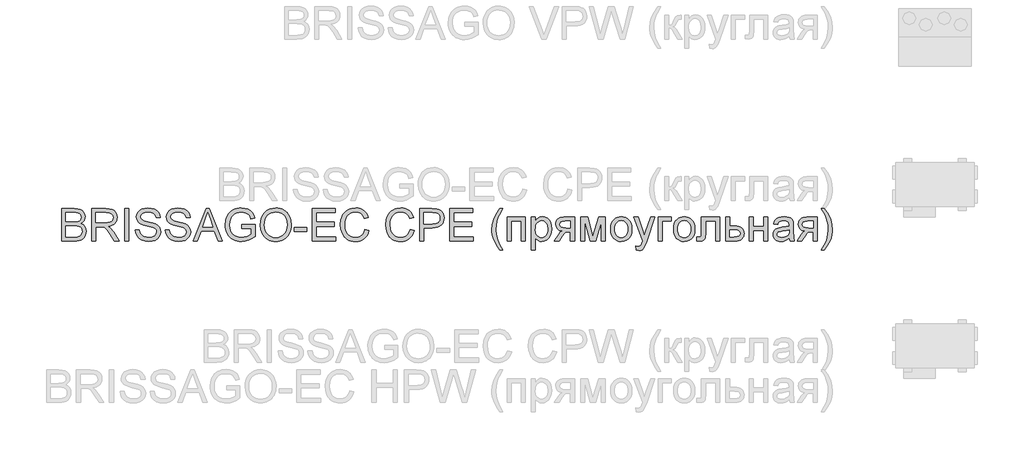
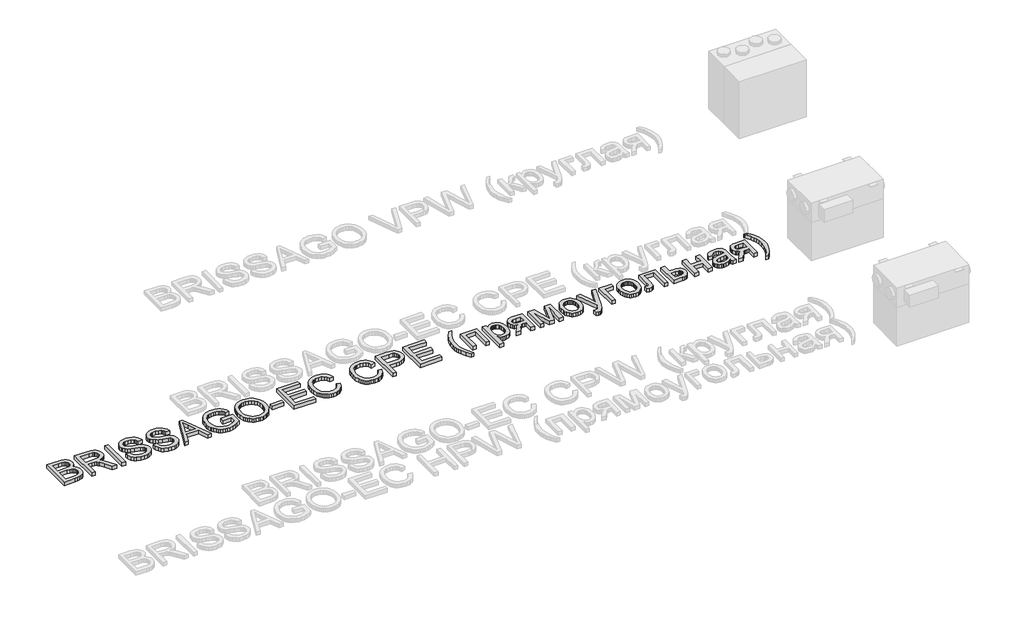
# One storey, part 11 of 28: 1 proxy.
"""IFC4 building model written with IfcOpenShell, lengths in millimetres."""

from ifc_helpers import new_model, si_unit, origin, origin_with_axes, place, context, project, spatial, polyline, outline, extrude, element, save

model = new_model("IFC4")

# Units and contexts
model_context = context("Model", 3, world=origin())
ifc_project = project(units=[si_unit("LENGTHUNIT", "METRE", prefix="MILLI")], contexts=[model_context])

# Site, building, storey
site = spatial("IfcSite", under=ifc_project)
building = spatial("IfcBuilding", under=site)
storey = spatial("IfcBuildingStorey", under=building, Name="Уровень 1", Elevation=0.0)

# Proxy
placement = place(None, origin())
element("IfcBuildingElementProxy", 1, Name="400 мм Arial", ObjectType="400 мм Arial", at=placement, inside=storey, context=model_context, shape_type="SweptSolid", body=[
    extrude(outline(polyline([(-31478.2290164, -2848.6932142), (-31478.2290164, -2446.8679737), (-31324.8958009, -2446.8679737), (-31282.7242615, -2449.8232923), (-31249.7988229, -2458.6892484), (-31224.562118, -2473.6865711), (-31205.4567798, -2495.0359896), (-31193.4270385, -2520.1500671), (-31189.4171248, -2546.441367), (-31192.7893764, -2570.6357396), (-31202.9061313, -2593.3831096), (-31219.8409658, -2613.2855255), (-31243.6674563, -2628.9450358), (-31215.2056526, -2643.8074684), (-31194.1750652, -2666.4199484), (-31181.1888308, -2695.2864223), (-31176.860086, -2728.9108366), (-31179.8154047, -2756.9311819), (-31188.6813608, -2782.9159135), (-31201.9128499, -2805.0133587), (-31217.9647676, -2821.3718447), (-31237.6219289, -2833.217645), (-31261.6691486, -2841.7770327), (-31290.8912418, -2846.9641689), (-31326.0730232, -2848.6932142), (-31478.2290164, -2848.6932142)]), holes=[polyline([(-31428.0008614, -2610.1094776), (-31336.2756172, -2610.1094776), (-31282.7119987, -2605.7929956), (-31263.9622797, -2598.3495165), (-31250.485536, -2587.2026921), (-31242.3553439, -2572.5242005), (-31239.6452798, -2554.48572), (-31242.1714029, -2536.974537), (-31249.749772, -2521.7196969), (-31262.0370306, -2509.812583), (-31278.6898223, -2502.3445785), (-31304.2453582, -2498.4082412), (-31343.2408497, -2497.0961287), (-31428.0008614, -2497.0961287), (-31428.0008614, -2610.1094776)]), polyline([(-31428.0008614, -2798.4650592), (-31324.9939027, -2798.4650592), (-31287.7151939, -2796.5030219), (-31256.1754442, -2785.5646639), (-31244.599424, -2776.1346221), (-31235.2797468, -2763.2464895), (-31229.1361175, -2747.4766146), (-31227.0882411, -2729.4013459), (-31229.4917368, -2708.4075468), (-31236.7022239, -2690.3568035), (-31249.2960508, -2676.2423976), (-31267.8495661, -2667.0576105), (-31294.1286033, -2662.0176272), (-31329.898996, -2660.3376327), (-31428.0008614, -2660.3376327), (-31428.0008614, -2798.4650592)])]), origin_with_axes(), (0.0, 0.0, 1.0), 50.0),
    extrude(outline(polyline([(-31107.7963728, -2848.6932142), (-31107.7963728, -2446.8679737), (-30934.6465804, -2446.8679737), (-30888.109508, -2449.5780377), (-30854.2521017, -2457.7082298), (-30829.5059061, -2472.7178152), (-30810.302466, -2496.0660591), (-30797.9784192, -2525.0183722), (-30793.8704035, -2556.8401647), (-30795.5718578, -2577.4783447), (-30800.6762205, -2596.4242674), (-30809.1834916, -2613.677933), (-30821.0936712, -2629.2393414), (-30836.5600434, -2642.6118519), (-30855.7358924, -2653.2988239), (-30878.6212182, -2661.3002573), (-30905.2160208, -2666.6161521), (-30876.6683779, -2688.1004606), (-30835.9561038, -2739.8001437), (-30768.9525297, -2848.6932142), (-30827.3231396, -2848.6932142), (-30879.6114339, -2765.4047305), (-30917.3806521, -2710.2714822), (-30931.4214815, -2694.195039), (-30943.9172066, -2684.2254369), (-30967.8050109, -2674.6605051), (-30996.9412649, -2672.8946715), (-31057.5682177, -2672.8946715), (-31057.5682177, -2848.6932142), (-31107.7963728, -2848.6932142)]), holes=[polyline([(-31057.5682177, -2622.6665164), (-30945.14348, -2622.6665164), (-30912.8557035, -2620.8884201), (-30887.8029396, -2615.5541312), (-30868.942856, -2606.3080304), (-30855.2331203, -2592.7944984), (-30846.8821991, -2576.4482751), (-30844.0985586, -2558.7041002), (-30849.4083221, -2534.2031593), (-30865.3376125, -2514.4601589), (-30877.4991781, -2506.8633957), (-30892.7448211, -2501.4371363), (-30932.4883393, -2497.0961287), (-31057.5682177, -2497.0961287), (-31057.5682177, -2622.6665164)])]), origin_with_axes(), (0.0, 0.0, 1.0), 50.0),
    extrude(outline(polyline([(-30699.6926128, -2848.6932142), (-30699.6926128, -2446.8679737), (-30649.4644577, -2446.8679737), (-30649.4644577, -2848.6932142), (-30699.6926128, -2848.6932142)])), origin_with_axes(), (0.0, 0.0, 1.0), 50.0),
    extrude(outline(polyline([(-30567.8437057, -2710.5657878), (-30517.6155506, -2710.5657878), (-30511.852066, -2738.4389803), (-30501.4287428, -2760.8429938), (-30485.1683587, -2778.6239569), (-30461.8936911, -2792.6279982), (-30433.4441501, -2801.7146835), (-30401.6591458, -2804.7435786), (-30373.6755887, -2802.4504475), (-30349.1746478, -2795.5710541), (-30329.3212828, -2784.6817471), (-30315.2804533, -2770.3588747), (-30306.929532, -2753.9145496), (-30304.1458916, -2736.660884), (-30306.2305562, -2719.8486768), (-30312.4845501, -2705.317338), (-30325.1887417, -2692.9197148), (-30346.6239993, -2682.5086543), (-30419.7589399, -2663.3297396), (-30467.7675403, -2650.6378108), (-30498.4856869, -2638.5590186), (-30523.4893998, -2621.6609723), (-30541.2090493, -2601.1822079), (-30551.7672625, -2577.5641838), (-30555.2866669, -2551.2483584), (-30550.9333967, -2521.8300615), (-30537.8735858, -2494.3983274), (-30516.450591, -2471.1481853), (-30487.0077686, -2454.2746645), (-30451.6665716, -2444.0107568), (-30412.5484528, -2440.5894543), (-30370.168447, -2444.1701724), (-30333.0859419, -2454.9123266), (-30302.6253127, -2472.5951878), (-30280.1109346, -2496.9980269), (-30265.8616386, -2526.6002647), (-30260.1962559, -2559.8813226), (-30310.424411, -2559.8813226), (-30319.6459863, -2529.9112027), (-30328.0091703, -2518.0531397), (-30338.8739519, -2508.2797414), (-30368.9176482, -2495.1831424), (-30410.5864155, -2490.8176093), (-30453.2362015, -2495.1340914), (-30469.5395052, -2500.529694), (-30482.4950828, -2508.0835376), (-30499.4176546, -2527.139825), (-30505.0585119, -2549.7768304), (-30501.0608609, -2569.0783724), (-30489.0679078, -2584.6029926), (-30460.7164687, -2598.4844066), (-30407.0547484, -2612.6601261), (-30351.6762453, -2626.1246072), (-30318.1744583, -2637.8723055), (-30289.5409764, -2656.094727), (-30269.564984, -2678.5845797), (-30257.8295484, -2705.0966088), (-30253.9177365, -2735.3855597), (-30258.4181596, -2766.348961), (-30271.9194288, -2795.4729523), (-30293.8697212, -2820.5379789), (-30323.7172137, -2839.3244861), (-30359.6102337, -2851.0599218), (-30399.6971084, -2854.9717336), (-30448.9074567, -2850.7533534), (-30489.4112643, -2838.0982128), (-30521.6745153, -2816.9572608), (-30546.1631935, -2787.2814465), (-30561.8840174, -2751.1309091), (-30567.8437057, -2710.5657878)])), origin_with_axes(), (0.0, 0.0, 1.0), 50.0),
    extrude(outline(polyline([(-30197.411062, -2710.5657878), (-30147.182907, -2710.5657878), (-30141.4194224, -2738.4389803), (-30130.9960992, -2760.8429938), (-30114.735715, -2778.6239569), (-30091.4610474, -2792.6279982), (-30063.0115065, -2801.7146835), (-30031.2265021, -2804.7435786), (-30003.242945, -2802.4504475), (-29978.7420041, -2795.5710541), (-29958.8886391, -2784.6817471), (-29944.8478096, -2770.3588747), (-29936.4968883, -2753.9145496), (-29933.7132479, -2736.660884), (-29935.7979125, -2719.8486768), (-29942.0519064, -2705.317338), (-29954.756098, -2692.9197148), (-29976.1913556, -2682.5086543), (-30049.3262962, -2663.3297396), (-30097.3348966, -2650.6378108), (-30128.0530432, -2638.5590186), (-30153.0567561, -2621.6609723), (-30170.7764056, -2601.1822079), (-30181.3346188, -2577.5641838), (-30184.8540233, -2551.2483584), (-30180.500753, -2521.8300615), (-30167.4409422, -2494.3983274), (-30146.0179473, -2471.1481853), (-30116.575125, -2454.2746645), (-30081.233928, -2444.0107568), (-30042.1158091, -2440.5894543), (-29999.7358033, -2444.1701724), (-29962.6532982, -2454.9123266), (-29932.192669, -2472.5951878), (-29909.6782909, -2496.9980269), (-29895.4289949, -2526.6002647), (-29889.7636122, -2559.8813226), (-29939.9917673, -2559.8813226), (-29949.2133426, -2529.9112027), (-29957.5765266, -2518.0531397), (-29968.4413082, -2508.2797414), (-29998.4850045, -2495.1831424), (-30040.1537718, -2490.8176093), (-30082.8035578, -2495.1340914), (-30099.1068616, -2500.529694), (-30112.0624392, -2508.0835376), (-30128.9850109, -2527.139825), (-30134.6258682, -2549.7768304), (-30130.6282172, -2569.0783724), (-30118.6352641, -2584.6029926), (-30090.283825, -2598.4844066), (-30036.6221047, -2612.6601261), (-29981.2436017, -2626.1246072), (-29947.7418146, -2637.8723055), (-29919.1083327, -2656.094727), (-29899.1323403, -2678.5845797), (-29887.3969047, -2705.0966088), (-29883.4850928, -2735.3855597), (-29887.9855159, -2766.348961), (-29901.4867851, -2795.4729523), (-29923.4370775, -2820.5379789), (-29953.28457, -2839.3244861), (-29989.17759, -2851.0599218), (-30029.2644648, -2854.9717336), (-30078.474813, -2850.7533534), (-30118.9786207, -2838.0982128), (-30151.2418716, -2816.9572608), (-30175.7305498, -2787.2814465), (-30191.4513737, -2751.1309091), (-30197.411062, -2710.5657878)])), origin_with_axes(), (0.0, 0.0, 1.0), 50.0),
    extrude(outline(polyline([(-29854.93745, -2848.6932142), (-29694.5409001, -2446.8679737), (-29651.7684868, -2446.8679737), (-29491.3719369, -2848.6932142), (-29544.4450461, -2848.6932142), (-29590.4548209, -2723.1228266), (-29755.9526678, -2723.1228266), (-29801.8643408, -2848.6932142), (-29854.93745, -2848.6932142)]), holes=[polyline([(-29737.5095171, -2672.8946715), (-29608.7998698, -2672.8946715), (-29644.9994581, -2574.106093), (-29673.1546934, -2497.0961287), (-29698.1706691, -2565.4731289), (-29737.5095171, -2672.8946715)])]), origin_with_axes(), (0.0, 0.0, 1.0), 50.0),
    extrude(outline(polyline([(-29249.354635, -2691.7302296), (-29249.354635, -2641.5020746), (-29086.113131, -2641.5020746), (-29086.113131, -2791.6960305), (-29125.7830728, -2819.2871801), (-29166.7038134, -2839.0792314), (-29208.7772509, -2850.9986081), (-29251.9052835, -2854.9717336), (-29280.756429, -2853.3929067), (-29308.2525424, -2848.656426), (-29334.3936239, -2840.7622916), (-29359.1796733, -2829.7105033), (-29381.8105474, -2815.6666081), (-29401.4861027, -2798.796153), (-29418.2063394, -2779.0991378), (-29431.9712574, -2756.5755627), (-29442.7226087, -2731.9458631), (-29450.4021454, -2705.9304747), (-29455.0098674, -2678.5293974), (-29456.5457747, -2649.7426313), (-29450.4266708, -2593.1501177), (-29442.777791, -2566.3345859), (-29432.0693593, -2540.5062042), (-29418.491448, -2516.7992753), (-29402.2341295, -2496.348102), (-29383.2974038, -2479.1526844), (-29361.6812709, -2465.2130225), (-29337.8547803, -2454.4402114), (-29312.2869816, -2446.7453463), (-29284.9778749, -2442.1284273), (-29255.92746, -2440.5894543), (-29214.5529983, -2444.1579096), (-29177.3478658, -2454.8632757), (-29146.0165826, -2471.9330003), (-29122.2636684, -2494.5945312), (-29104.6911718, -2523.9392516), (-29091.9011411, -2561.058545), (-29138.2052215, -2574.106093), (-29148.5427056, -2547.6308521), (-29161.1120071, -2527.6548598), (-29177.7402733, -2512.5962235), (-29200.2546514, -2500.8730505), (-29227.0977743, -2493.3314696), (-29256.7122749, -2490.8176093), (-29291.3790216, -2493.5276734), (-29321.0180477, -2501.6578655), (-29345.5189885, -2514.1903788), (-29364.7714796, -2530.1074064), (-29379.5480731, -2548.5873453), (-29390.6213211, -2568.8085923), (-29402.393545, -2606.7249633), (-29406.3176196, -2647.6824921), (-29401.5964673, -2695.7156179), (-29387.4330105, -2735.2384069), (-29364.2564448, -2765.9688163), (-29332.4959659, -2787.624803), (-29295.3276217, -2800.4638847), (-29255.92746, -2804.7435786), (-29221.138086, -2801.5184797), (-29187.2071033, -2791.8431833), (-29157.7397555, -2778.5135923), (-29136.3412861, -2764.32561), (-29136.3412861, -2691.7302296), (-29249.354635, -2691.7302296)])), origin_with_axes(), (0.0, 0.0, 1.0), 50.0),
    extrude(outline(polyline([(-29023.3279372, -2653.0780947), (-29019.980211, -2605.9462797), (-29009.9370325, -2564.2223301), (-28993.1984018, -2527.9062458), (-28969.7643187, -2496.9980269), (-28941.0388662, -2472.3192763), (-28908.4261273, -2454.6915974), (-28871.926102, -2444.1149901), (-28831.5387903, -2440.5894543), (-28804.5055951, -2442.2449232), (-28778.8335632, -2447.2113302), (-28754.5226947, -2455.4886751), (-28731.5729895, -2467.0769579), (-28710.6282413, -2481.6266908), (-28692.3322434, -2498.7883859), (-28676.6849958, -2518.5620431), (-28663.6864987, -2540.9476626), (-28653.4716419, -2565.4363407), (-28646.1753157, -2591.5191742), (-28640.3382547, -2648.467307), (-28641.874162, -2678.1247272), (-28646.481884, -2706.1757293), (-28654.1614207, -2732.6203134), (-28664.912772, -2757.4584794), (-28678.4814862, -2780.0341712), (-28694.6131117, -2799.6913325), (-28713.3076485, -2816.4299633), (-28734.5650964, -2830.2500636), (-28757.5485241, -2841.0657942), (-28781.4209999, -2848.7913161), (-28806.1825238, -2853.4266293), (-28831.8330959, -2854.9717336), (-28859.3384064, -2853.264148), (-28885.3476635, -2848.1413913), (-28909.8608671, -2839.6034633), (-28932.8780173, -2827.6503641), (-28953.7982401, -2812.745012), (-28972.0206616, -2795.3503249), (-28987.5452818, -2775.4663031), (-29000.3721007, -2753.0929464), (-29017.588978, -2704.4712094), (-29023.3279372, -2653.0780947)]), holes=[polyline([(-28973.0997821, -2653.568604), (-28970.5889875, -2686.8680559), (-28963.0566036, -2716.4273742), (-28950.5026305, -2742.2465589), (-28932.9270682, -2764.32561), (-28911.5623213, -2782.0084713), (-28887.6407946, -2794.6390864), (-28861.162488, -2802.2174555), (-28832.1274015, -2804.7435786), (-28802.5956744, -2802.1929301), (-28775.8046681, -2794.5409846), (-28751.7543826, -2781.7877421), (-28730.4448181, -2763.9332026), (-28712.9980144, -2741.3881676), (-28700.5360119, -2714.5634388), (-28693.0588103, -2683.4590161), (-28690.5664098, -2648.0748995), (-28694.8338409, -2603.6102291), (-28707.6361344, -2565.1788233), (-28728.6421963, -2533.7494382), (-28757.5209329, -2510.2908296), (-28792.3593579, -2495.6859144), (-28831.2444847, -2490.8176093), (-28859.2709614, -2493.1628571), (-28885.2740871, -2500.1986002), (-28909.2538618, -2511.9248388), (-28931.2102856, -2528.3415728), (-28949.5369403, -2550.2397486), (-28962.627408, -2578.4103124), (-28970.4816886, -2612.8532642), (-28973.0997821, -2653.568604)])]), origin_with_axes(), (0.0, 0.0, 1.0), 50.0),
    extrude(outline(polyline([(-28602.6671384, -2729.4013459), (-28602.6671384, -2679.1731909), (-28445.7041538, -2679.1731909), (-28445.7041538, -2729.4013459), (-28602.6671384, -2729.4013459)])), origin_with_axes(), (0.0, 0.0, 1.0), 50.0),
    extrude(outline(polyline([(-28382.91896, -2848.6932142), (-28382.91896, -2446.8679737), (-28094.1070683, -2446.8679737), (-28094.1070683, -2497.0961287), (-28332.6908049, -2497.0961287), (-28332.6908049, -2616.387997), (-28106.664107, -2616.387997), (-28106.664107, -2666.6161521), (-28332.6908049, -2666.6161521), (-28332.6908049, -2798.4650592), (-28087.8285489, -2798.4650592), (-28087.8285489, -2848.6932142), (-28382.91896, -2848.6932142)])), origin_with_axes(), (0.0, 0.0, 1.0), 50.0),
    extrude(outline(polyline([(-27729.952944, -2705.8568983), (-27679.7247889, -2718.8063445), (-27689.6637341, -2750.0425916), (-27702.9013546, -2777.3363699), (-27719.4376503, -2800.6876796), (-27739.2726212, -2820.0965205), (-27761.9586776, -2835.3544262), (-27787.0482296, -2846.2529303), (-27814.5412774, -2852.7920328), (-27844.4378209, -2854.9717336), (-27875.0670627, -2853.322396), (-27902.6980662, -2848.3743832), (-27927.3308314, -2840.1276951), (-27948.9653584, -2828.5823318), (-27967.8990185, -2813.9099716), (-27984.4291828, -2796.2822927), (-27998.5558514, -2775.699295), (-28010.2790243, -2752.1609787), (-28026.0611619, -2700.2896174), (-28031.3218744, -2644.7394361), (-28025.3744488, -2586.148097), (-28017.9401669, -2559.8506657), (-28007.5321721, -2535.55206), (-27994.3834564, -2513.6538842), (-27978.7270119, -2494.557743), (-27960.5628383, -2478.2636363), (-27939.8909359, -2464.7715641), (-27917.413346, -2454.191891), (-27893.8321101, -2446.6349817), (-27843.3587004, -2440.5894543), (-27814.6301822, -2442.5453602), (-27788.2867657, -2448.413078), (-27764.3284508, -2458.1926077), (-27742.7552374, -2471.8839493), (-27723.9227449, -2489.1253522), (-27708.1865926, -2509.5550656), (-27695.5467804, -2533.1730897), (-27686.0033083, -2559.9794244), (-27736.2314634, -2571.947852), (-27753.6445445, -2535.319068), (-27777.4342468, -2510.1927278), (-27807.894876, -2495.6613889), (-27845.3207377, -2490.8176093), (-27888.461033, -2496.1886865), (-27907.143307, -2502.9025329), (-27923.9003318, -2512.3019179), (-27950.7925057, -2537.4650463), (-27968.2914259, -2569.9858147), (-27977.893146, -2606.7494888), (-27981.0937194, -2644.6413343), (-27977.3045348, -2691.0435166), (-27965.9369812, -2731.1671795), (-27946.5618627, -2763.4794814), (-27918.7499839, -2786.4475807), (-27885.4076124, -2800.1695791), (-27849.441016, -2804.7435786), (-27827.6041539, -2803.1862114), (-27807.5147313, -2798.5141101), (-27789.1727482, -2790.7272745), (-27772.5782045, -2779.8257048), (-27758.1235078, -2765.8584517), (-27746.2010654, -2748.8745662), (-27736.8108775, -2728.8740484), (-27729.952944, -2705.8568983)])), origin_with_axes(), (0.0, 0.0, 1.0), 50.0),
    extrude(outline(polyline([(-27171.1647188, -2705.8568983), (-27120.9365637, -2718.8063445), (-27130.8755089, -2750.0425916), (-27144.1131294, -2777.3363699), (-27160.6494251, -2800.6876796), (-27180.484396, -2820.0965205), (-27203.1704524, -2835.3544262), (-27228.2600044, -2846.2529303), (-27255.7530522, -2852.7920328), (-27285.6495957, -2854.9717336), (-27316.2788375, -2853.322396), (-27343.909841, -2848.3743832), (-27368.5426062, -2840.1276951), (-27390.1771332, -2828.5823318), (-27409.1107933, -2813.9099716), (-27425.6409576, -2796.2822927), (-27439.7676262, -2775.699295), (-27451.4907991, -2752.1609787), (-27467.2729367, -2700.2896174), (-27472.5336492, -2644.7394361), (-27466.5862236, -2586.148097), (-27459.1519417, -2559.8506657), (-27448.7439469, -2535.55206), (-27435.5952312, -2513.6538842), (-27419.9387866, -2494.557743), (-27401.7746131, -2478.2636363), (-27381.1027107, -2464.7715641), (-27358.6251208, -2454.191891), (-27335.0438849, -2446.6349817), (-27284.5704752, -2440.5894543), (-27255.841957, -2442.5453602), (-27229.4985405, -2448.413078), (-27205.5402255, -2458.1926077), (-27183.9670122, -2471.8839493), (-27165.1345197, -2489.1253522), (-27149.3983674, -2509.5550656), (-27136.7585552, -2533.1730897), (-27127.2150831, -2559.9794244), (-27177.4432382, -2571.947852), (-27194.8563193, -2535.319068), (-27218.6460216, -2510.1927278), (-27249.1066508, -2495.6613889), (-27286.5325125, -2490.8176093), (-27329.6728078, -2496.1886865), (-27348.3550818, -2502.9025329), (-27365.1121066, -2512.3019179), (-27392.0042805, -2537.4650463), (-27409.5032007, -2569.9858147), (-27419.1049208, -2606.7494888), (-27422.3054942, -2644.6413343), (-27418.5163096, -2691.0435166), (-27407.148756, -2731.1671795), (-27387.7736375, -2763.4794814), (-27359.9617587, -2786.4475807), (-27326.6193872, -2800.1695791), (-27290.6527908, -2804.7435786), (-27268.8159287, -2803.1862114), (-27248.7265061, -2798.5141101), (-27230.384523, -2790.7272745), (-27213.7899793, -2779.8257048), (-27199.3352826, -2765.8584517), (-27187.4128402, -2748.8745662), (-27178.0226523, -2728.8740484), (-27171.1647188, -2705.8568983)])), origin_with_axes(), (0.0, 0.0, 1.0), 50.0),
    extrude(outline(polyline([(-27051.8728505, -2848.6932142), (-27051.8728505, -2446.8679737), (-26902.9542188, -2446.8679737), (-26842.9158772, -2450.6939464), (-26816.1463307, -2457.8431198), (-26794.1101992, -2469.4804536), (-26776.3660243, -2486.1332453), (-26762.4723476, -2508.3287923), (-26753.4960269, -2534.5097276), (-26750.50392, -2563.1186841), (-26752.5242053, -2587.7851719), (-26758.5850612, -2610.4773596), (-26768.6864876, -2631.1952473), (-26782.8284847, -2649.938835), (-26802.243457, -2665.4757179), (-26828.1638092, -2676.5734914), (-26860.5895414, -2683.2321556), (-26899.5206535, -2685.4517103), (-27001.6446954, -2685.4517103), (-27001.6446954, -2848.6932142), (-27051.8728505, -2848.6932142)]), holes=[polyline([(-27001.6446954, -2635.2235552), (-26896.5775976, -2635.2235552), (-26852.0393507, -2630.6127675), (-26835.43561, -2624.8492829), (-26822.6087911, -2616.7804045), (-26813.0377278, -2606.6207301), (-26806.2012541, -2594.5848574), (-26800.7320751, -2564.8845177), (-26803.9571739, -2542.3210887), (-26813.6324704, -2523.2893268), (-26828.5562167, -2508.9664544), (-26847.5266649, -2500.529694), (-26897.75482, -2497.0961287), (-27001.6446954, -2497.0961287), (-27001.6446954, -2635.2235552)])]), origin_with_axes(), (0.0, 0.0, 1.0), 50.0),
    extrude(outline(polyline([(-26681.4402068, -2848.6932142), (-26681.4402068, -2446.8679737), (-26392.6283151, -2446.8679737), (-26392.6283151, -2497.0961287), (-26631.2120517, -2497.0961287), (-26631.2120517, -2616.387997), (-26405.1853539, -2616.387997), (-26405.1853539, -2666.6161521), (-26631.2120517, -2666.6161521), (-26631.2120517, -2798.4650592), (-26386.3497957, -2798.4650592), (-26386.3497957, -2848.6932142), (-26681.4402068, -2848.6932142)])), origin_with_axes(), (0.0, 0.0, 1.0), 50.0),
    extrude(outline(polyline([(-26059.8667877, -2961.7065632), (-26098.7887028, -2907.0883496), (-26131.1868439, -2843.8862228), (-26143.933955, -2809.8326128), (-26153.0390344, -2775.1658661), (-26158.502082, -2739.8859828), (-26160.3230979, -2703.9929628), (-26154.8784444, -2641.575651), (-26138.5444838, -2581.8561404), (-26106.1218173, -2514.2149042), (-26059.8667877, -2446.8679737), (-26022.1956714, -2446.8679737), (-26069.186465, -2526.4285865), (-26085.2261199, -2564.1978046), (-26097.4398022, -2603.5366527), (-26106.9311577, -2653.7893332), (-26110.0949428, -2704.2872684), (-26104.6012384, -2768.6788803), (-26088.120125, -2833.0459667), (-26060.6516027, -2897.3885277), (-26022.1956714, -2961.7065632), (-26059.8667877, -2961.7065632)])), origin_with_axes(), (0.0, 0.0, 1.0), 50.0),
    extrude(outline(polyline([(-25971.9675164, -2553.6028032), (-25745.9408185, -2553.6028032), (-25745.9408185, -2848.6932142), (-25796.1689736, -2848.6932142), (-25796.1689736, -2603.8309583), (-25921.7393613, -2603.8309583), (-25921.7393613, -2848.6932142), (-25971.9675164, -2848.6932142), (-25971.9675164, -2553.6028032)])), origin_with_axes(), (0.0, 0.0, 1.0), 50.0),
    extrude(outline(polyline([(-25670.5985859, -2961.7065632), (-25670.5985859, -2553.6028032), (-25620.3704308, -2553.6028032), (-25620.3704308, -2602.8499396), (-25603.9874193, -2578.5574652), (-25585.6423705, -2561.2056978), (-25564.2561638, -2550.7946373), (-25538.7496788, -2547.3242838), (-25504.781908, -2552.1803261), (-25475.0815682, -2566.7484531), (-25450.8994584, -2590.145748), (-25433.4863773, -2621.489294), (-25422.9649522, -2658.4982227), (-25419.4578105, -2698.8916658), (-25423.4186734, -2741.8480201), (-25435.3012618, -2780.2671631), (-25454.7254311, -2812.1993203), (-25481.3110367, -2835.6947171), (-25512.2744379, -2850.1524795), (-25544.8319945, -2854.9717336), (-25567.9227211, -2851.7466348), (-25588.5363755, -2842.0713383), (-25606.1824486, -2827.4664231), (-25620.3704308, -2809.4524681), (-25620.3704308, -2961.7065632), (-25670.5985859, -2961.7065632)]), holes=[polyline([(-25620.3704308, -2703.5024535), (-25614.93804, -2748.5312097), (-25608.1475516, -2765.9688163), (-25598.6408677, -2780.0219085), (-25574.5936479, -2798.563161), (-25560.8317956, -2803.1984742), (-25545.911115, -2804.7435786), (-25530.7758366, -2803.1432919), (-25516.7625983, -2798.3424318), (-25503.8714, -2790.3409984), (-25492.1022419, -2779.1389917), (-25482.295121, -2764.5769961), (-25475.2900347, -2746.495596), (-25471.0869829, -2724.8947915), (-25469.6859656, -2699.7745826), (-25475.1551446, -2654.9910811), (-25481.9916184, -2637.4185844), (-25491.5626816, -2623.0589239), (-25515.5731132, -2603.9290601), (-25529.1786156, -2599.1465942), (-25543.8509758, -2597.5524389), (-25558.4773508, -2599.2477617), (-25572.2392031, -2604.3337303), (-25597.1693397, -2624.6776047), (-25607.3198171, -2639.7760949), (-25614.5701581, -2657.9463997), (-25618.9203626, -2679.1885193), (-25620.3704308, -2703.5024535)])]), origin_with_axes(), (0.0, 0.0, 1.0), 50.0),
    extrude(outline(polyline([(-25136.9244382, -2553.6028032), (-25136.9244382, -2848.6932142), (-25187.1525933, -2848.6932142), (-25187.1525933, -2735.6798653), (-25214.5230138, -2735.6798653), (-25236.3506788, -2737.2740206), (-25251.8017226, -2742.0564866), (-25266.6886807, -2755.962426), (-25286.8240885, -2784.9270018), (-25326.8496496, -2848.6932142), (-25384.9259539, -2848.6932142), (-25334.5015951, -2768.0534809), (-25312.2324717, -2739.1134306), (-25291.7291818, -2726.2620863), (-25326.0648347, -2715.7406612), (-25339.4066884, -2706.9298874), (-25350.1978936, -2695.7524061), (-25364.471715, -2669.1668006), (-25369.2296555, -2638.8533242), (-25367.6048433, -2620.7657928), (-25362.7304069, -2604.4686204), (-25354.6063462, -2589.961807), (-25343.2326611, -2577.2453527), (-25328.7810301, -2566.9017373), (-25311.4231313, -2559.5134406), (-25291.1589647, -2555.0804625), (-25267.9885304, -2553.6028032), (-25136.9244382, -2553.6028032)]), holes=[polyline([(-25187.1525933, -2603.8309583), (-25253.3713525, -2603.8309583), (-25287.5721153, -2606.737226), (-25306.9840219, -2615.4560293), (-25315.9971308, -2628.0743817), (-25319.0015004, -2642.6792969), (-25314.5746537, -2661.8214234), (-25301.2941137, -2675.1019635), (-25276.7563846, -2682.8642736), (-25238.5579708, -2685.4517103), (-25187.1525933, -2685.4517103), (-25187.1525933, -2603.8309583)])]), origin_with_axes(), (0.0, 0.0, 1.0), 50.0),
    extrude(outline(polyline([(-25061.5822056, -2553.6028032), (-24975.1544622, -2553.6028032), (-24908.5432956, -2789.832095), (-24836.7327302, -2553.6028032), (-24753.9347558, -2553.6028032), (-24753.9347558, -2848.6932142), (-24804.1629109, -2848.6932142), (-24804.1629109, -2611.0904963), (-24876.3658838, -2848.6932142), (-24942.2903373, -2848.6932142), (-25011.3540506, -2599.7106799), (-25011.3540506, -2848.6932142), (-25061.5822056, -2848.6932142), (-25061.5822056, -2553.6028032)])), origin_with_axes(), (0.0, 0.0, 1.0), 50.0),
    extrude(outline(polyline([(-24691.149562, -2701.1480087), (-24688.4333666, -2662.9312008), (-24680.2847804, -2629.9996308), (-24666.7038034, -2602.3532989), (-24647.6904356, -2579.992205), (-24628.5483091, -2565.6999895), (-24607.4196199, -2555.4912641), (-24584.3043678, -2549.3660289), (-24559.202553, -2547.3242838), (-24531.4918417, -2549.810553), (-24506.4360122, -2557.2693604), (-24484.0350644, -2569.7007062), (-24464.2889983, -2587.1045902), (-24448.1727012, -2608.8924014), (-24436.6610604, -2634.4755285), (-24429.754076, -2663.8539715), (-24427.4517478, -2697.0277304), (-24431.5229752, -2747.7709202), (-24443.7366575, -2786.3985297), (-24463.7371753, -2815.3263173), (-24491.1689094, -2836.9700413), (-24523.7509914, -2850.4713106), (-24559.202553, -2854.9717336), (-24587.3179345, -2852.4946615), (-24612.606756, -2845.0634452), (-24635.0690175, -2832.6780847), (-24654.704719, -2815.33858), (-24670.6493378, -2793.3392367), (-24682.0383512, -2766.9743604), (-24688.8717593, -2736.2439511), (-24691.149562, -2701.1480087)]), holes=[polyline([(-24640.9214069, -2701.0499069), (-24639.468273, -2725.412892), (-24635.1088714, -2746.5078587), (-24627.843202, -2764.3348071), (-24617.6712648, -2778.893737), (-24605.298167, -2790.2030427), (-24591.4290158, -2798.2811182), (-24576.0638111, -2803.1279635), (-24559.202553, -2804.7435786), (-24542.427134, -2803.1187664), (-24527.123243, -2798.24433), (-24513.29088, -2790.1202692), (-24500.930045, -2778.7465842), (-24490.7581078, -2764.0435672), (-24483.4924384, -2745.9315103), (-24479.1330368, -2724.4104135), (-24477.6799029, -2699.480277), (-24479.1422338, -2675.8898441), (-24483.5292266, -2655.3467003), (-24490.8408813, -2637.8508458), (-24501.0771978, -2623.4022804), (-24513.4840181, -2612.0929747), (-24527.307184, -2604.0148993), (-24542.5466957, -2599.168054), (-24559.202553, -2597.5524389), (-24576.0638111, -2599.1619226), (-24591.4290158, -2603.9903738), (-24605.298167, -2612.0377924), (-24617.6712648, -2623.3041785), (-24627.843202, -2637.8201889), (-24635.1088714, -2655.6164804), (-24639.468273, -2676.6930531), (-24640.9214069, -2701.0499069)])]), origin_with_axes(), (0.0, 0.0, 1.0), 50.0),
    extrude(outline(polyline([(-24370.9450734, -2961.7065632), (-24377.2235927, -2913.3423435), (-24351.7171077, -2917.7569275), (-24338.3016777, -2916.3712386), (-24327.8783545, -2912.2141721), (-24313.2611765, -2896.7631283), (-24299.5269154, -2859.778725), (-24295.6028407, -2847.6140937), (-24402.3376703, -2553.6028032), (-24349.362663, -2553.6028032), (-24292.7578866, -2717.4329184), (-24273.0394117, -2782.9649644), (-24253.3209368, -2725.0848639), (-24195.1465306, -2553.6028032), (-24142.5639308, -2553.6028032), (-24245.2765838, -2855.7565486), (-24271.9602912, -2921.2885946), (-24285.6209759, -2942.2088174), (-24301.0965452, -2956.703368), (-24319.073712, -2965.1646539), (-24340.2391895, -2967.9850826), (-24370.9450734, -2961.7065632)])), origin_with_axes(), (0.0, 0.0, 1.0), 50.0),
    extrude(outline(polyline([(-24100.9687398, -2553.6028032), (-23937.7272358, -2553.6028032), (-23937.7272358, -2603.8309583), (-24050.7405848, -2603.8309583), (-24050.7405848, -2848.6932142), (-24100.9687398, -2848.6932142), (-24100.9687398, -2553.6028032)])), origin_with_axes(), (0.0, 0.0, 1.0), 50.0),
    extrude(outline(polyline([(-23912.6131583, -2701.1480087), (-23909.8969629, -2662.9312008), (-23901.7483767, -2629.9996308), (-23888.1673997, -2602.3532989), (-23869.1540319, -2579.992205), (-23850.0119055, -2565.6999895), (-23828.8832162, -2555.4912641), (-23805.7679642, -2549.3660289), (-23780.6661494, -2547.3242838), (-23752.9554381, -2549.810553), (-23727.8996085, -2557.2693604), (-23705.4986607, -2569.7007062), (-23685.7525946, -2587.1045902), (-23669.6362975, -2608.8924014), (-23658.1246568, -2634.4755285), (-23651.2176723, -2663.8539715), (-23648.9153442, -2697.0277304), (-23652.9865716, -2747.7709202), (-23665.2002538, -2786.3985297), (-23685.2007716, -2815.3263173), (-23712.6325057, -2836.9700413), (-23745.2145878, -2850.4713106), (-23780.6661494, -2854.9717336), (-23808.7815308, -2852.4946615), (-23834.0703523, -2845.0634452), (-23856.5326138, -2832.6780847), (-23876.1683153, -2815.33858), (-23892.1129341, -2793.3392367), (-23903.5019476, -2766.9743604), (-23910.3353556, -2736.2439511), (-23912.6131583, -2701.1480087)]), holes=[polyline([(-23862.3850032, -2701.0499069), (-23860.9318693, -2725.412892), (-23856.5724677, -2746.5078587), (-23849.3067983, -2764.3348071), (-23839.1348611, -2778.893737), (-23826.7617634, -2790.2030427), (-23812.8926121, -2798.2811182), (-23797.5274075, -2803.1279635), (-23780.6661494, -2804.7435786), (-23763.8907304, -2803.1187664), (-23748.5868394, -2798.24433), (-23734.7544764, -2790.1202692), (-23722.3936413, -2778.7465842), (-23712.2217042, -2764.0435672), (-23704.9560348, -2745.9315103), (-23700.5966331, -2724.4104135), (-23699.1434992, -2699.480277), (-23700.6058302, -2675.8898441), (-23704.992823, -2655.3467003), (-23712.3044776, -2637.8508458), (-23722.5407941, -2623.4022804), (-23734.9476144, -2612.0929747), (-23748.7707804, -2604.0148993), (-23764.010292, -2599.168054), (-23780.6661494, -2597.5524389), (-23797.5274075, -2599.1619226), (-23812.8926121, -2603.9903738), (-23826.7617634, -2612.0377924), (-23839.1348611, -2623.3041785), (-23849.3067983, -2637.8201889), (-23856.5724677, -2655.6164804), (-23860.9318693, -2676.6930531), (-23862.3850032, -2701.0499069)])]), origin_with_axes(), (0.0, 0.0, 1.0), 50.0),
    extrude(outline(polyline([(-23567.2945922, -2553.6028032), (-23341.2678943, -2553.6028032), (-23341.2678943, -2848.3989087), (-23391.4960494, -2848.3989087), (-23391.4960494, -2603.8309583), (-23517.0664371, -2603.8309583), (-23517.0664371, -2744.6071351), (-23520.4509514, -2809.55057), (-23526.7907845, -2824.253587), (-23539.0412549, -2836.9700413), (-23557.6315584, -2845.762421), (-23582.9908906, -2848.6932142), (-23623.8012666, -2846.1425657), (-23623.8012666, -2798.4650592), (-23601.3359394, -2798.4650592), (-23578.6253576, -2795.3748504), (-23569.5509351, -2785.5646639), (-23567.2945922, -2741.762181), (-23567.2945922, -2553.6028032)])), origin_with_axes(), (0.0, 0.0, 1.0), 50.0),
    extrude(outline(polyline([(-23265.9256617, -2553.6028032), (-23215.6975066, -2553.6028032), (-23215.6975066, -2660.3376327), (-23157.8174061, -2660.3376327), (-23131.0969105, -2661.9103282), (-23107.6383019, -2666.6284148), (-23087.4415804, -2674.4918925), (-23070.5067459, -2685.5007612), (-23057.1158412, -2699.2748762), (-23047.5509094, -2715.4340929), (-23041.8119502, -2733.9784111), (-23039.8989639, -2754.9078309), (-23041.5268417, -2773.5809079), (-23046.4104752, -2790.8499019), (-23054.5498643, -2806.7148129), (-23065.9450091, -2821.175641), (-23080.920872, -2833.2145793), (-23099.8024154, -2841.8138209), (-23122.5896393, -2846.9733659), (-23149.2825438, -2848.6932142), (-23265.9256617, -2848.6932142), (-23265.9256617, -2553.6028032)]), holes=[polyline([(-23215.6975066, -2798.4650592), (-23168.804815, -2798.4650592), (-23132.4212857, -2795.8285715), (-23108.2269131, -2787.9191086), (-23094.6520675, -2774.4178394), (-23090.1271189, -2755.0059328), (-23093.4748451, -2738.5983958), (-23103.5180236, -2724.1038452), (-23112.2460239, -2718.1809451), (-23125.0391203, -2713.9503021), (-23162.8206012, -2710.5657878), (-23215.6975066, -2710.5657878), (-23215.6975066, -2798.4650592)])]), origin_with_axes(), (0.0, 0.0, 1.0), 50.0),
    extrude(outline(polyline([(-22977.11377, -2553.6028032), (-22926.885615, -2553.6028032), (-22926.885615, -2666.6161521), (-22795.0367079, -2666.6161521), (-22795.0367079, -2553.6028032), (-22744.8085528, -2553.6028032), (-22744.8085528, -2848.6932142), (-22795.0367079, -2848.6932142), (-22795.0367079, -2716.8443072), (-22926.885615, -2716.8443072), (-22926.885615, -2848.6932142), (-22977.11377, -2848.6932142), (-22977.11377, -2553.6028032)])), origin_with_axes(), (0.0, 0.0, 1.0), 50.0),
    extrude(outline(polyline([(-22481.1107387, -2811.0220979), (-22505.1089075, -2831.5989642), (-22529.8183148, -2845.0634452), (-22555.8030464, -2852.4946615), (-22583.627188, -2854.9717336), (-22605.9913476, -2853.4818116), (-22625.6025236, -2849.0120453), (-22642.4607161, -2841.5624349), (-22656.5659249, -2831.1329803), (-22667.7035523, -2818.3858692), (-22675.6590005, -2803.9832891), (-22680.4322693, -2787.92524), (-22682.023359, -2770.2117219), (-22679.6198633, -2749.389601), (-22672.4093762, -2730.4804665), (-22661.2870772, -2714.2936587), (-22647.1481458, -2701.638518), (-22630.5321424, -2692.0735862), (-22611.9786271, -2685.1574047), (-22568.5195007, -2677.603561), (-22517.1631742, -2669.6573099), (-22481.4050443, -2660.3376327), (-22481.1107387, -2649.1540201), (-22484.5688294, -2626.7377438), (-22494.9431017, -2612.071515), (-22518.1441928, -2601.1822079), (-22550.4687575, -2597.5524389), (-22580.3898264, -2599.9681973), (-22601.2855238, -2607.2154726), (-22615.5348197, -2620.61864), (-22625.5166845, -2641.5020746), (-22675.7448396, -2635.2235552), (-22667.0260363, -2607.7550329), (-22654.0152764, -2586.1726225), (-22635.4985493, -2569.6669836), (-22610.2618444, -2557.4287759), (-22579.396545, -2549.8504068), (-22543.9940344, -2547.3242838), (-22510.0385262, -2549.5561012), (-22483.1218269, -2556.2515535), (-22462.8270035, -2566.3192575), (-22448.7371231, -2578.6678298), (-22439.3929204, -2593.9349326), (-22433.3351302, -2612.758228), (-22430.8825836, -2656.7078637), (-22430.8825836, -2719.1987519), (-22428.3319351, -2806.4603612), (-22418.3255448, -2848.6932142), (-22468.5536999, -2848.6932142), (-22476.5980529, -2831.2310822), (-22481.1107387, -2811.0220979)]), holes=[polyline([(-22481.1107387, -2710.5657878), (-22514.8577804, -2718.9289718), (-22562.1428795, -2725.9677807), (-22605.3567512, -2734.1102355), (-22616.6016775, -2739.6775163), (-22624.9280733, -2747.3539873), (-22630.0784212, -2756.5510372), (-22631.7952039, -2766.6800548), (-22628.0550703, -2781.6160638), (-22616.8346694, -2793.8542715), (-22598.379256, -2802.0212518), (-22572.9340847, -2804.7435786), (-22545.9560717, -2801.7392089), (-22522.1173184, -2792.7261), (-22502.7912509, -2779.44556), (-22489.3512954, -2763.638897), (-22483.391607, -2747.3539873), (-22481.4050443, -2724.7905583), (-22481.1107387, -2710.5657878)])]), origin_with_axes(), (0.0, 0.0, 1.0), 50.0),
    extrude(outline(polyline([(-22135.7921725, -2553.6028032), (-22135.7921725, -2848.6932142), (-22186.0203276, -2848.6932142), (-22186.0203276, -2735.6798653), (-22213.390748, -2735.6798653), (-22235.2184131, -2737.2740206), (-22250.6694569, -2742.0564866), (-22265.556415, -2755.962426), (-22285.6918228, -2784.9270018), (-22325.7173839, -2848.6932142), (-22383.7936882, -2848.6932142), (-22333.3693294, -2768.0534809), (-22311.100206, -2739.1134306), (-22290.5969161, -2726.2620863), (-22324.932569, -2715.7406612), (-22338.2744227, -2706.9298874), (-22349.0656279, -2695.7524061), (-22363.3394493, -2669.1668006), (-22368.0973897, -2638.8533242), (-22366.4725776, -2620.7657928), (-22361.5981412, -2604.4686204), (-22353.4740804, -2589.961807), (-22342.1003954, -2577.2453527), (-22327.6487644, -2566.9017373), (-22310.2908656, -2559.5134406), (-22290.026699, -2555.0804625), (-22266.8562647, -2553.6028032), (-22135.7921725, -2553.6028032)]), holes=[polyline([(-22186.0203276, -2603.8309583), (-22252.2390867, -2603.8309583), (-22286.4398496, -2606.737226), (-22305.8517562, -2615.4560293), (-22314.864865, -2628.0743817), (-22317.8692347, -2642.6792969), (-22313.442388, -2661.8214234), (-22300.161848, -2675.1019635), (-22275.6241189, -2682.8642736), (-22237.4257051, -2685.4517103), (-22186.0203276, -2685.4517103), (-22186.0203276, -2603.8309583)])]), origin_with_axes(), (0.0, 0.0, 1.0), 50.0),
    extrude(outline(polyline([(-22047.8929011, -2961.7065632), (-22085.5640175, -2961.7065632), (-22047.1080862, -2897.3885277), (-22019.6395639, -2833.0459667), (-22003.1584505, -2768.6788803), (-21997.6647461, -2704.2872684), (-22000.8285312, -2654.1572152), (-22010.3198867, -2604.4195695), (-22022.3128397, -2565.007145), (-22038.2789183, -2527.2134014), (-22085.5640175, -2446.8679737), (-22047.8929011, -2446.8679737), (-22001.6378716, -2514.2149042), (-21969.2152051, -2581.8561404), (-21952.8812445, -2641.575651), (-21947.436591, -2703.9929628), (-21949.2668039, -2739.8859828), (-21954.7574427, -2775.1658661), (-21963.9085073, -2809.8326128), (-21976.7199978, -2843.8862228), (-22009.1549271, -2907.0883496), (-22047.8929011, -2961.7065632)])), origin_with_axes(), (0.0, 0.0, 1.0), 50.0),
])

save(model, "model.ifc")
